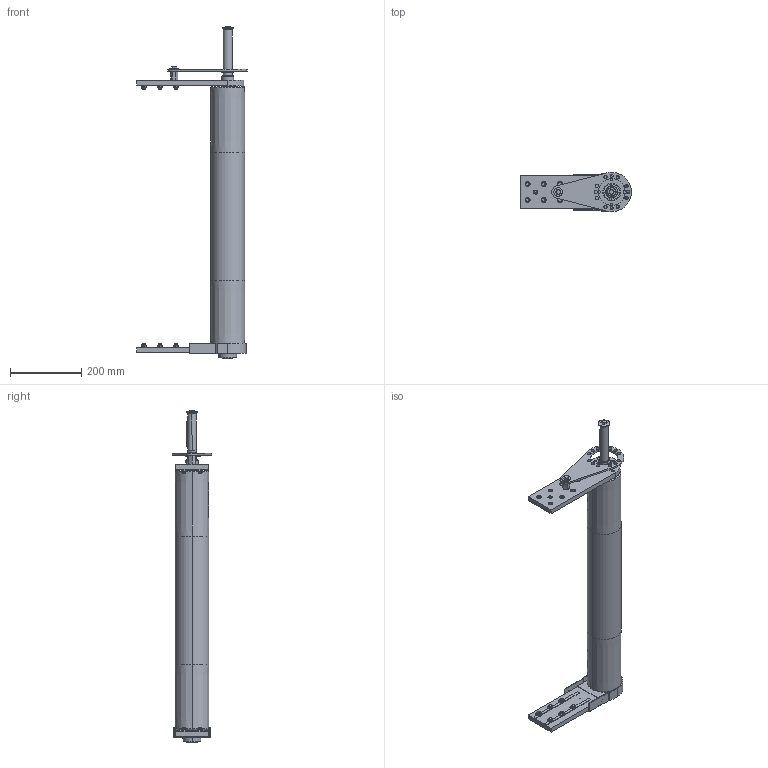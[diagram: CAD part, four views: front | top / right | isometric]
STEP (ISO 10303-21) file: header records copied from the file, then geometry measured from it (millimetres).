
FILE_DESCRIPTION (( 'STEP AP214' ), '1' );
FILE_NAME ('084.095.KD.63.700.STEP', '2019-07-30T07:09:30', ( '' ), ( '' ), 'SwSTEP 2.0', 'SolidWorks 2018', '' );
FILE_SCHEMA (( 'AUTOMOTIVE_DESIGN' ));
Length unit declared in the file: millimetre
Products named in the file (23): CHIAVETTE_A 8x7x25 UNI 6604-69; 084.802.019_084.802.019; GRANI A PUNTA PIATTA UNI 5923_M8x25 UNI 5923; 084.812.003; 084.808.003_084.808.003; 084.812.004; 084.802.027; 084.803.005-1; 084.810.003; 084.095.KD.63.700; 084.301.000 VITI ALUSIC_084.301.003; RONDELLE FASCIA LARGA UNI 6593_8.4x24 UNI 6593; 084.302.000 DADI ALUSIC 13x13_084.302.004; VITI TE UNI 5739_M8x16 UNI 5739; 084.808.002_084.808.002; RONDELLE FASCIA LARGA UNI 6593_8.4x32 UNI 6593; CHIAVETTE_A 8x7x70 UNI 6604-69; 084.816.114_084.816.110<A macchina>; VITI TSEI UNI 5933_M4x12 UNI 5933; ANELLI ELASTICI PER ESTERNI UNI 7435-75_25 UNI 7435; 084.802.034_084.802.034; ANELLI ELASTICI PER ESTERNI UNI 7435-75_15 UNI 7435; 084.808.005-1
Assembly tree (48 placements, depth 2):
  084.095.KD.63.700
    084.803.005-1
    084.808.005-1
    084.802.027
    084.812.004
    084.802.034_084.802.034
    084.816.114_084.816.110<A macchina>
    084.812.003
    084.808.003_084.808.003
    084.808.002_084.808.002
    084.810.003  x2
    084.802.019_084.802.019
    CHIAVETTE_A 8x7x25 UNI 6604-69
    ANELLI ELASTICI PER ESTERNI UNI 7435-75_25 UNI 7435
    ANELLI ELASTICI PER ESTERNI UNI 7435-75_15 UNI 7435  x2
    CHIAVETTE_A 8x7x70 UNI 6604-69
    VITI TSEI UNI 5933_M4x12 UNI 5933  x2
    RONDELLE FASCIA LARGA UNI 6593_8.4x32 UNI 6593
    VITI TE UNI 5739_M8x16 UNI 5739  x2
    RONDELLE FASCIA LARGA UNI 6593_8.4x24 UNI 6593
    084.301.000 VITI ALUSIC_084.301.003  x12
    084.302.000 DADI ALUSIC 13x13_084.302.004  x12
    GRANI A PUNTA PIATTA UNI 5923_M8x25 UNI 5923
Bounding box: 310 x 110 x 929.33 mm (x, y, z)
Volume: 2380886 mm3; surface area: 1051464.8 mm2
Topology: 53 solids, 54 shells, 1365 faces, 3456 edges, 2249 vertices
Faces by surface type: plane 717, cylinder 385, cone 110, torus 96, bspline 48, sphere 9
Entity records: 30830 total; most frequent: CARTESIAN_POINT 6137, DIRECTION 4917, ORIENTED_EDGE 4796, EDGE_CURVE 2398, AXIS2_PLACEMENT_3D 1754, VERTEX_POINT 1568, VECTOR 1409, LINE 1409
